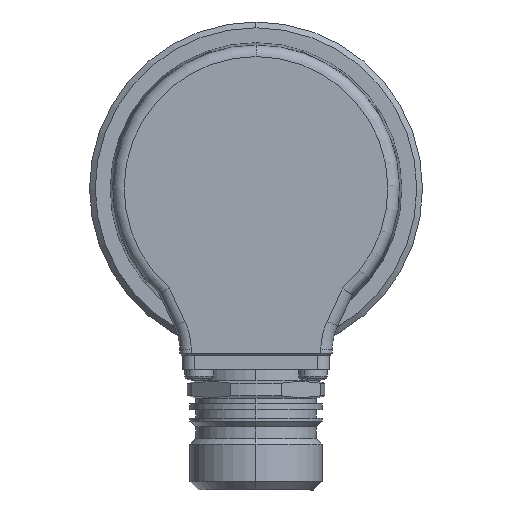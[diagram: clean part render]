
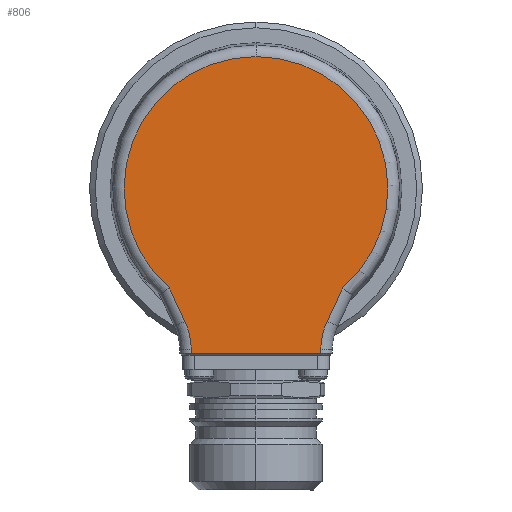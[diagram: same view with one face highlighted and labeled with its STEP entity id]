
A CAD part, left-side view. The second image highlights one B-rep face of the part: STEP entity #806.
In plain terms, the highlighted planar face has unit normal (-1, 0, 0).
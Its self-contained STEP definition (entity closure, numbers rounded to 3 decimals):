
#514 = VERTEX_POINT ( 'NONE', #4994 ) ;
#566 = VERTEX_POINT ( 'NONE', #4975 ) ;
#567 = VERTEX_POINT ( 'NONE', #4974 ) ;
#569 = EDGE_CURVE ( 'NONE', #514, #567, #4969, .T. ) ;
#575 = VERTEX_POINT ( 'NONE', #5082 ) ;
#577 = EDGE_CURVE ( 'NONE', #566, #575, #5081, .T. ) ;
#669 = VERTEX_POINT ( 'NONE', #5487 ) ;
#671 = EDGE_CURVE ( 'NONE', #567, #669, #5485, .T. ) ;
#737 = EDGE_CURVE ( 'NONE', #738, #514, #5700, .T. ) ;
#738 = VERTEX_POINT ( 'NONE', #5618 ) ;
#785 = VERTEX_POINT ( 'NONE', #5862 ) ;
#804 = EDGE_CURVE ( 'NONE', #669, #785, #5926, .T. ) ;
#806 = ADVANCED_FACE ( 'NONE', ( #5922 ), #5910, .F. ) ;
#807 = EDGE_LOOP ( 'NONE', ( #808, #887, #888, #890, #891, #894, #896, #897, #841 ) ) ;
#808 = ORIENTED_EDGE ( 'NONE', *, *, #804, .T. ) ;
#841 = ORIENTED_EDGE ( 'NONE', *, *, #671, .T. ) ;
#845 = VERTEX_POINT ( 'NONE', #6129 ) ;
#849 = EDGE_CURVE ( 'NONE', #785, #845, #6127, .T. ) ;
#887 = ORIENTED_EDGE ( 'NONE', *, *, #849, .T. ) ;
#888 = ORIENTED_EDGE ( 'NONE', *, *, #889, .T. ) ;
#889 = EDGE_CURVE ( 'NONE', #845, #566, #6380, .T. ) ;
#890 = ORIENTED_EDGE ( 'NONE', *, *, #577, .T. ) ;
#891 = ORIENTED_EDGE ( 'NONE', *, *, #892, .T. ) ;
#892 = EDGE_CURVE ( 'NONE', #575, #893, #6376, .T. ) ;
#893 = VERTEX_POINT ( 'NONE', #6372 ) ;
#894 = ORIENTED_EDGE ( 'NONE', *, *, #895, .T. ) ;
#895 = EDGE_CURVE ( 'NONE', #893, #738, #6371, .T. ) ;
#896 = ORIENTED_EDGE ( 'NONE', *, *, #737, .T. ) ;
#897 = ORIENTED_EDGE ( 'NONE', *, *, #569, .T. ) ;
#4966 = DIRECTION ( 'NONE',  ( 0., -0.423, -0.906 ) ) ;
#4967 = VECTOR ( 'NONE', #4966, 1000. ) ;
#4968 = CARTESIAN_POINT ( 'NONE',  ( -21., 12.39, -23.112 ) ) ;
#4969 = LINE ( 'NONE', #4968, #4967 ) ;
#4974 = CARTESIAN_POINT ( 'NONE',  ( -21., 12.39, -23.112 ) ) ;
#4975 = CARTESIAN_POINT ( 'NONE',  ( -21., -11.268, -27.974 ) ) ;
#4994 = CARTESIAN_POINT ( 'NONE',  ( -21., 15.091, -17.32 ) ) ;
#5077 = DIRECTION ( 'NONE',  ( 0., 0., 1. ) ) ;
#5078 = DIRECTION ( 'NONE',  ( 1., 0., 0. ) ) ;
#5079 = CARTESIAN_POINT ( 'NONE',  ( -21., -23.266, -28.183 ) ) ;
#5080 = AXIS2_PLACEMENT_3D ( 'NONE', #5079, #5078, #5077 ) ;
#5081 = CIRCLE ( 'NONE', #5080, 12. ) ;
#5082 = CARTESIAN_POINT ( 'NONE',  ( -21., -12.39, -23.112 ) ) ;
#5484 = AXIS2_PLACEMENT_3D ( 'NONE', #5567, #5566, #5565 ) ;
#5485 = CIRCLE ( 'NONE', #5484, 12. ) ;
#5487 = CARTESIAN_POINT ( 'NONE',  ( -21., 11.268, -27.974 ) ) ;
#5565 = DIRECTION ( 'NONE',  ( 0., 0., 1. ) ) ;
#5566 = DIRECTION ( 'NONE',  ( 1., 0., 0. ) ) ;
#5567 = CARTESIAN_POINT ( 'NONE',  ( -21., 23.266, -28.183 ) ) ;
#5618 = CARTESIAN_POINT ( 'NONE',  ( -21., 0., 22.972 ) ) ;
#5619 = DIRECTION ( 'NONE',  ( 0., 0., 1. ) ) ;
#5620 = DIRECTION ( 'NONE',  ( -1., 0., 0. ) ) ;
#5621 = CARTESIAN_POINT ( 'NONE',  ( -21., 0., 0. ) ) ;
#5622 = AXIS2_PLACEMENT_3D ( 'NONE', #5621, #5620, #5619 ) ;
#5700 = CIRCLE ( 'NONE', #5622, 22.972 ) ;
#5862 = CARTESIAN_POINT ( 'NONE',  ( -21., 11.255, -28.695 ) ) ;
#5906 = DIRECTION ( 'NONE',  ( 0., 0., 1. ) ) ;
#5907 = DIRECTION ( 'NONE',  ( 1., 0., 0. ) ) ;
#5908 = CARTESIAN_POINT ( 'NONE',  ( -21., 0., 0. ) ) ;
#5909 = AXIS2_PLACEMENT_3D ( 'NONE', #5908, #5907, #5906 ) ;
#5910 = PLANE ( 'NONE',  #5909 ) ;
#5922 = FACE_OUTER_BOUND ( 'NONE', #807, .T. ) ;
#5923 = DIRECTION ( 'NONE',  ( 0., -0.017, -1. ) ) ;
#5924 = VECTOR ( 'NONE', #5923, 1000. ) ;
#5925 = CARTESIAN_POINT ( 'NONE',  ( -21., 11.752, -0.205 ) ) ;
#5926 = LINE ( 'NONE', #5925, #5924 ) ;
#6124 = DIRECTION ( 'NONE',  ( 0., -1., 0. ) ) ;
#6125 = VECTOR ( 'NONE', #6124, 1000. ) ;
#6126 = CARTESIAN_POINT ( 'NONE',  ( -21., -11.25, -28.695 ) ) ;
#6127 = LINE ( 'NONE', #6126, #6125 ) ;
#6129 = CARTESIAN_POINT ( 'NONE',  ( -21., -11.255, -28.695 ) ) ;
#6367 = DIRECTION ( 'NONE',  ( 0., 0., 1. ) ) ;
#6368 = DIRECTION ( 'NONE',  ( -1., 0., 0. ) ) ;
#6369 = CARTESIAN_POINT ( 'NONE',  ( -21., 0., 0. ) ) ;
#6370 = AXIS2_PLACEMENT_3D ( 'NONE', #6369, #6368, #6367 ) ;
#6371 = CIRCLE ( 'NONE', #6370, 22.972 ) ;
#6372 = CARTESIAN_POINT ( 'NONE',  ( -21., -15.091, -17.32 ) ) ;
#6373 = DIRECTION ( 'NONE',  ( 0., -0.423, 0.906 ) ) ;
#6374 = VECTOR ( 'NONE', #6373, 1000. ) ;
#6375 = CARTESIAN_POINT ( 'NONE',  ( -21., -14.953, -17.615 ) ) ;
#6376 = LINE ( 'NONE', #6375, #6374 ) ;
#6377 = DIRECTION ( 'NONE',  ( 0., -0.017, 1. ) ) ;
#6378 = VECTOR ( 'NONE', #6377, 1000. ) ;
#6379 = CARTESIAN_POINT ( 'NONE',  ( -21., -11.752, -0.205 ) ) ;
#6380 = LINE ( 'NONE', #6379, #6378 ) ;
